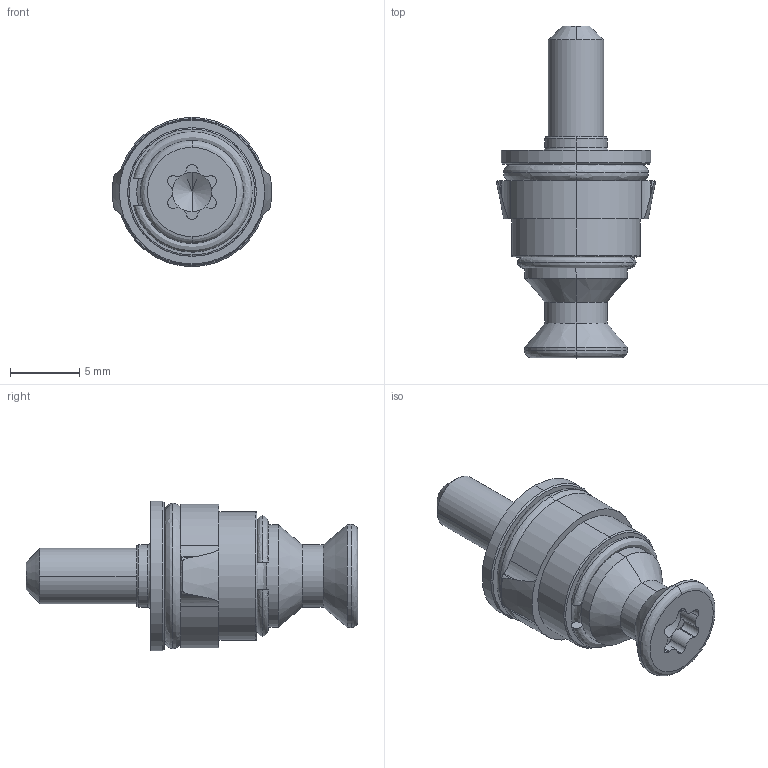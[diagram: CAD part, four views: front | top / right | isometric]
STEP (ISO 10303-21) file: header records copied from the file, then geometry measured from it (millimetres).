
FILE_DESCRIPTION (( 'STEP AP203' ), '1' );
FILE_NAME ('QS022-EAS-M4.STEP', '2017-06-07T09:26:12', ( '' ), ( '' ), 'SwSTEP 2.0', 'SolidWorks 2017', '' );
FILE_SCHEMA (( 'CONFIG_CONTROL_DESIGN' ));
Length unit declared in the file: millimetre
Products named in the file (1): QS022-EAS-M4
Bounding box: 11.51 x 24 x 10.8 mm (x, y, z)
Volume: 935.8 mm3; surface area: 1477.7 mm2
Topology: 7 solids, 7 shells, 181 faces, 481 edges, 281 vertices
Faces by surface type: cylinder 73, cone 55, plane 27, bspline 26
Entity records: 6057 total; most frequent: CARTESIAN_POINT 1827, ORIENTED_EDGE 884, DIRECTION 874, EDGE_CURVE 442, AXIS2_PLACEMENT_3D 368, VERTEX_POINT 281, CIRCLE 212, EDGE_LOOP 191
